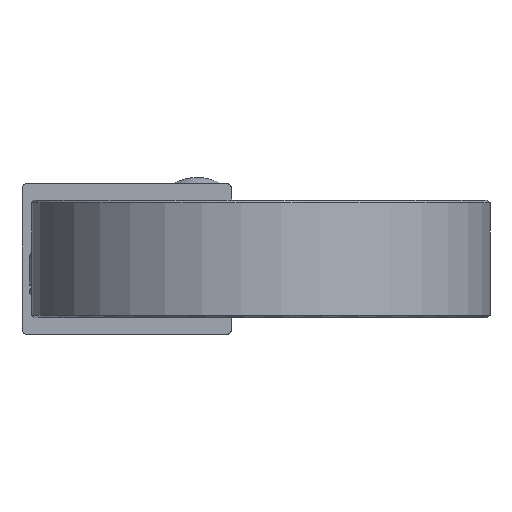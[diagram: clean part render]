
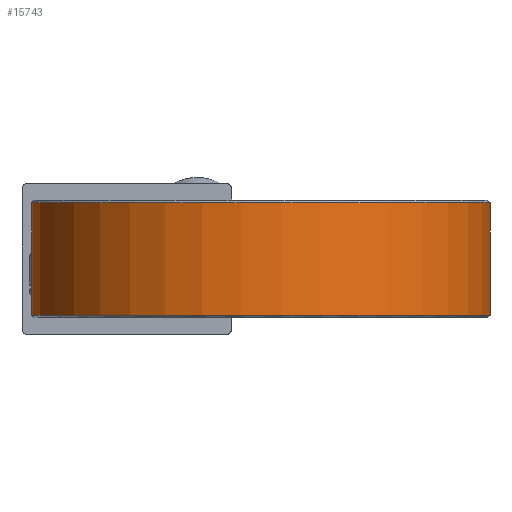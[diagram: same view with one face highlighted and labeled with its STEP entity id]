
A CAD part, left-side view. The second image highlights one B-rep face of the part: STEP entity #15743.
In plain terms, the highlighted cylindrical face has radius 137 mm (diameter 274 mm), a partial arc.
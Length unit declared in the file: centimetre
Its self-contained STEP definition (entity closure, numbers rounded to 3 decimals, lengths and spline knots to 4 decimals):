
#2904=VECTOR('',#20059,1.);
#2905=VECTOR('',#20060,1.);
#3905=LINE('',#34112,#2904);
#3906=LINE('',#34118,#2905);
#6145=VERTEX_POINT('',#34108);
#6146=VERTEX_POINT('',#34109);
#6147=VERTEX_POINT('',#34113);
#6148=VERTEX_POINT('',#34117);
#6698=CIRCLE('',#16965,13.7);
#6703=CIRCLE('',#16973,13.7);
#8645=EDGE_CURVE('',#6146,#6145,#6698,.T.);
#8646=EDGE_CURVE('',#6145,#6147,#3905,.T.);
#8648=EDGE_CURVE('',#6146,#6148,#3906,.T.);
#8653=EDGE_CURVE('',#6147,#6148,#6703,.T.);
#12556=ORIENTED_EDGE('',*,*,#8645,.F.);
#12557=ORIENTED_EDGE('',*,*,#8648,.T.);
#12558=ORIENTED_EDGE('',*,*,#8653,.F.);
#12559=ORIENTED_EDGE('',*,*,#8646,.F.);
#13723=EDGE_LOOP('',(#12556,#12557,#12558,#12559));
#14869=FACE_BOUND('',#13723,.T.);
#15743=ADVANCED_FACE('',(#14869),#34431,.T.);
#16965=AXIS2_PLACEMENT_3D('',#34110,#20056,#20057);
#16973=AXIS2_PLACEMENT_3D('',#34129,#20072,#20073);
#16983=AXIS2_PLACEMENT_3D('',#34142,#20089,#20090);
#20056=DIRECTION('',(0.,0.,1.));
#20057=DIRECTION('',(-13.7,0.,0.));
#20059=DIRECTION('',(0.,0.,-1.));
#20060=DIRECTION('',(0.,0.,-1.));
#20072=DIRECTION('',(0.,0.,-1.));
#20073=DIRECTION('',(-13.7,0.,0.));
#20089=DIRECTION('',(0.,0.,-1.));
#20090=DIRECTION('',(-13.7,0.,0.));
#34108=CARTESIAN_POINT('',(-5.519,-8.4216,5.5968));
#34109=CARTESIAN_POINT('',(-5.519,-5.1171,5.5968));
#34110=CARTESIAN_POINT('',(-19.119,-6.7693,5.5968));
#34112=CARTESIAN_POINT('',(-5.519,-8.4216,5.7468));
#34113=CARTESIAN_POINT('',(-5.519,-8.4216,-1.1032));
#34117=CARTESIAN_POINT('',(-5.519,-5.1171,-1.1032));
#34118=CARTESIAN_POINT('',(-5.519,-5.1171,5.7468));
#34129=CARTESIAN_POINT('',(-19.119,-6.7693,-1.1032));
#34142=CARTESIAN_POINT('',(-19.119,-6.7693,5.7468));
#34431=CYLINDRICAL_SURFACE('',#16983,13.7);
